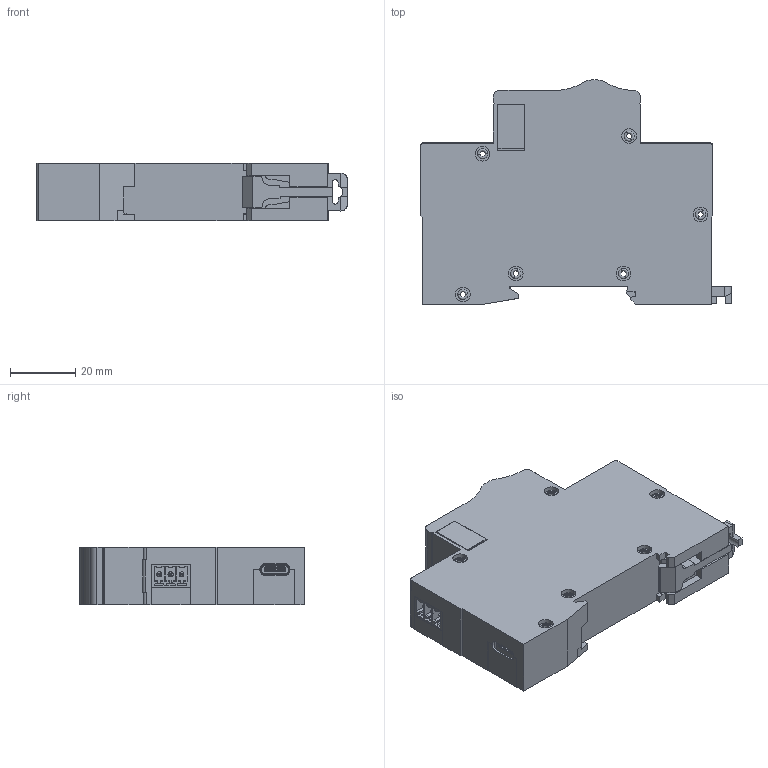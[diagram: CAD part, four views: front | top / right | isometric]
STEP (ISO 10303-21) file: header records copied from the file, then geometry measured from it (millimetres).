
FILE_DESCRIPTION (( 'STEP AP214' ), '1' );
FILE_NAME ('DF-TMB RS485&WIFI&ETH.step', '2023-12-13T06:23:45', ( '' ), ( '' ), 'SwSTEP 2.0', 'SolidWorks 2018', '' );
FILE_SCHEMA (( 'AUTOMOTIVE_DESIGN' ));
Length unit declared in the file: millimetre
Products named in the file (1): DF-TMB RS485&WIFI&ETH
Bounding box: 95.12 x 68.78 x 17.6 mm (x, y, z)
Surface area: 48862.5 mm2 (no closed solid volume)
Topology: 0 solids, 28 shells, 2714 faces, 7400 edges, 4869 vertices
Faces by surface type: plane 1799, cylinder 578, bspline 240, cone 57, torus 40
Entity records: 125463 total; most frequent: CARTESIAN_POINT 28065, ORIENTED_EDGE 14718, DIRECTION 12572, EDGE_CURVE 7400, VECTOR 5420, LINE 5420, VERTEX_POINT 4869, AXIS2_PLACEMENT_3D 3576
